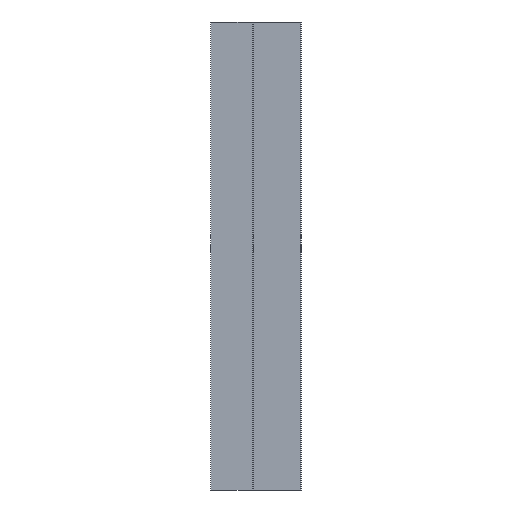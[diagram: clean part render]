
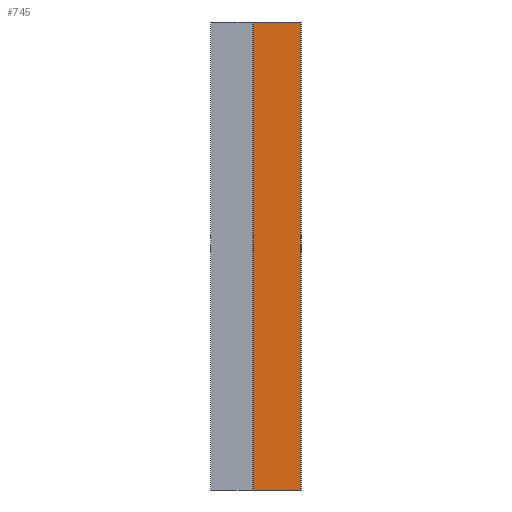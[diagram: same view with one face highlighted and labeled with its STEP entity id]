
A CAD part, left-side view. The second image highlights one B-rep face of the part: STEP entity #745.
In plain terms, the highlighted planar face has unit normal (-1, 0, 0).
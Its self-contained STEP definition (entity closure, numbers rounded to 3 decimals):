
#6 = DIRECTION ( 'NONE',  ( 0., 0., -1. ) ) ;
#16 = VECTOR ( 'NONE', #86, 1000. ) ;
#20 = FACE_OUTER_BOUND ( 'NONE', #577, .T. ) ;
#29 = PLANE ( 'NONE',  #548 ) ;
#38 = ORIENTED_EDGE ( 'NONE', *, *, #272, .T. ) ;
#52 = LINE ( 'NONE', #352, #122 ) ;
#54 = VERTEX_POINT ( 'NONE', #314 ) ;
#64 = CARTESIAN_POINT ( 'NONE',  ( 24.3, -35.2, 0. ) ) ;
#86 = DIRECTION ( 'NONE',  ( 0., 0., -1. ) ) ;
#117 = ORIENTED_EDGE ( 'NONE', *, *, #626, .T. ) ;
#122 = VECTOR ( 'NONE', #6, 1000. ) ;
#136 = CARTESIAN_POINT ( 'NONE',  ( 24.3, -35.7, 0. ) ) ;
#153 = LINE ( 'NONE', #271, #16 ) ;
#166 = ORIENTED_EDGE ( 'NONE', *, *, #630, .F. ) ;
#206 = DIRECTION ( 'NONE',  ( 0., 1., 0. ) ) ;
#207 = VERTEX_POINT ( 'NONE', #373 ) ;
#271 = CARTESIAN_POINT ( 'NONE',  ( 24.3, -35.7, 10. ) ) ;
#272 = EDGE_CURVE ( 'NONE', #207, #364, #153, .T. ) ;
#314 = CARTESIAN_POINT ( 'NONE',  ( 24.3, -75.237, 390. ) ) ;
#352 = CARTESIAN_POINT ( 'NONE',  ( 24.3, -75.237, 10. ) ) ;
#364 = VERTEX_POINT ( 'NONE', #136 ) ;
#373 = CARTESIAN_POINT ( 'NONE',  ( 24.3, -35.7, 390. ) ) ;
#395 = LINE ( 'NONE', #629, #609 ) ;
#434 = VECTOR ( 'NONE', #526, 1000. ) ;
#477 = CARTESIAN_POINT ( 'NONE',  ( 24.3, -75.237, 0. ) ) ;
#526 = DIRECTION ( 'NONE',  ( 0., -1., 0. ) ) ;
#537 = LINE ( 'NONE', #64, #434 ) ;
#548 = AXIS2_PLACEMENT_3D ( 'NONE', #603, #565, #206 ) ;
#565 = DIRECTION ( 'NONE',  ( 1., 0., 0. ) ) ;
#577 = EDGE_LOOP ( 'NONE', ( #117, #166, #647, #38 ) ) ;
#584 = EDGE_CURVE ( 'NONE', #207, #54, #395, .T. ) ;
#603 = CARTESIAN_POINT ( 'NONE',  ( 24.3, -35.2, 10. ) ) ;
#609 = VECTOR ( 'NONE', #642, 1000. ) ;
#626 = EDGE_CURVE ( 'NONE', #364, #640, #537, .T. ) ;
#629 = CARTESIAN_POINT ( 'NONE',  ( 24.3, -35.7, 390. ) ) ;
#630 = EDGE_CURVE ( 'NONE', #54, #640, #52, .T. ) ;
#640 = VERTEX_POINT ( 'NONE', #477 ) ;
#642 = DIRECTION ( 'NONE',  ( 0., -1., 0. ) ) ;
#647 = ORIENTED_EDGE ( 'NONE', *, *, #584, .F. ) ;
#745 = ADVANCED_FACE ( 'NONE', ( #20 ), #29, .F. ) ;
